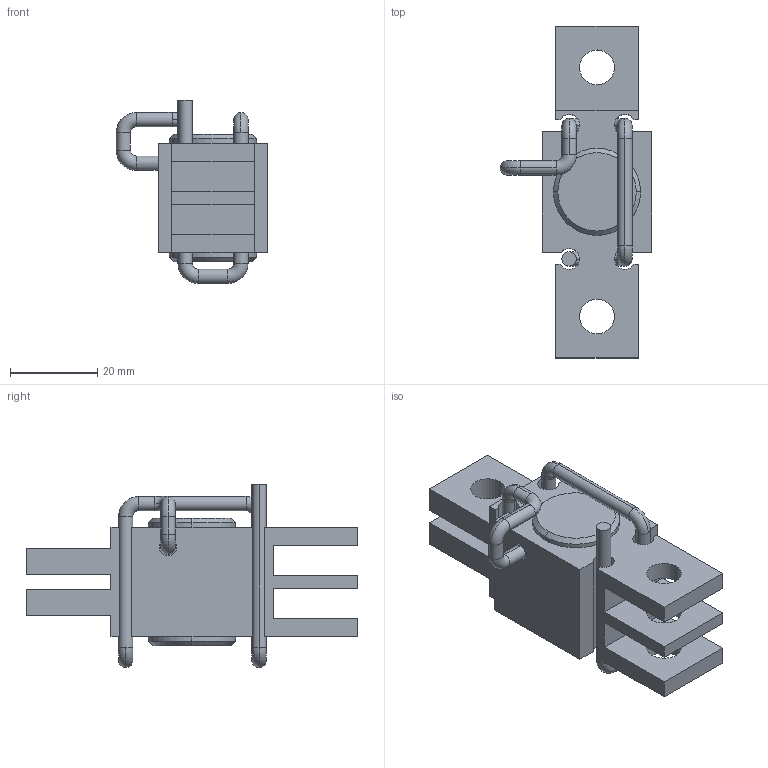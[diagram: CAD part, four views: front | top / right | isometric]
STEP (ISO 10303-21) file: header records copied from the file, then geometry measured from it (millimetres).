
FILE_DESCRIPTION (( 'STEP AP214' ), '1' );
FILE_NAME ('3.STEP', '2025-08-06T00:28:44', ( '' ), ( '' ), 'SwSTEP 2.0', 'SolidWorks 2024', '' );
FILE_SCHEMA (( 'AUTOMOTIVE_DESIGN' ));
Length unit declared in the file: millimetre
Products named in the file (1): 3
Bounding box: 34.85 x 76.2 x 42.07 mm (x, y, z)
Volume: 30617.7 mm3; surface area: 13384.4 mm2
Topology: 2 solids, 2 shells, 107 faces, 266 edges, 166 vertices
Faces by surface type: cylinder 44, plane 39, torus 20, cone 4
Entity records: 3242 total; most frequent: DIRECTION 604, CARTESIAN_POINT 540, ORIENTED_EDGE 532, EDGE_CURVE 266, AXIS2_PLACEMENT_3D 230, VERTEX_POINT 166, VECTOR 144, LINE 144
